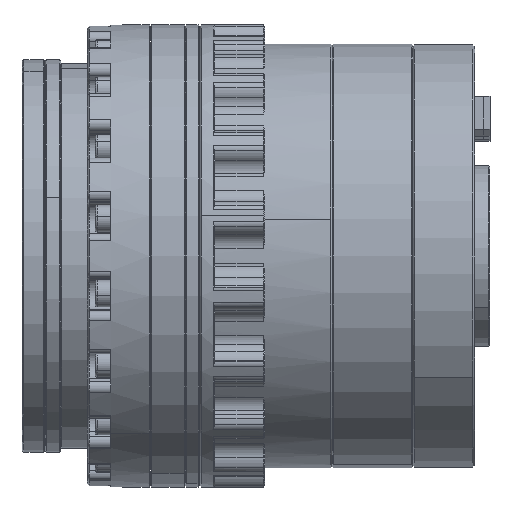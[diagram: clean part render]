
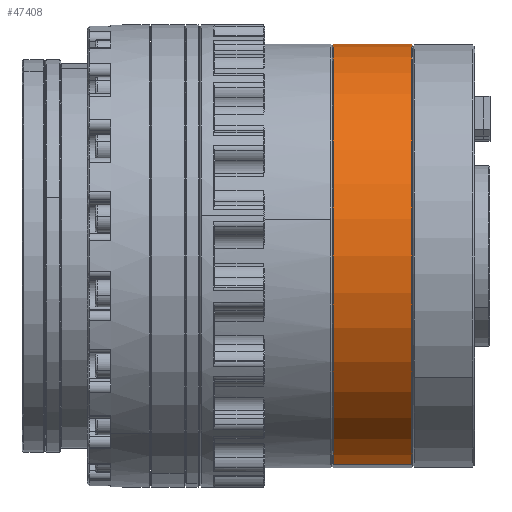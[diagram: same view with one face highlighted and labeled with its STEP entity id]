
A CAD part, left-side view. The second image highlights one B-rep face of the part: STEP entity #47408.
In plain terms, the highlighted cylindrical face has radius 55 mm (diameter 110 mm), a partial arc.
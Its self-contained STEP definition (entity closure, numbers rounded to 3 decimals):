
#2147 = DIRECTION ( 'NONE',  ( 0., 1., 0. ) ) ;
#4577 = DIRECTION ( 'NONE',  ( 0.174, 0., 0.985 ) ) ;
#5516 = CARTESIAN_POINT ( 'NONE',  ( 8.694, -92.972, -57.445 ) ) ;
#5675 = EDGE_LOOP ( 'NONE', ( #6200, #41259, #46866, #8740 ) ) ;
#6200 = ORIENTED_EDGE ( 'NONE', *, *, #43372, .T. ) ;
#8740 = ORIENTED_EDGE ( 'NONE', *, *, #39382, .F. ) ;
#10804 = CARTESIAN_POINT ( 'NONE',  ( 18.244, -91.272, -3.281 ) ) ;
#14685 = DIRECTION ( 'NONE',  ( 0., 1., 0. ) ) ;
#15492 = LINE ( 'NONE', #31020, #35375 ) ;
#17852 = LINE ( 'NONE', #49793, #29140 ) ;
#18506 = CIRCLE ( 'NONE', #40464, 55. ) ;
#18682 = CYLINDRICAL_SURFACE ( 'NONE', #37662, 55. ) ;
#19140 = DIRECTION ( 'NONE',  ( 0., 1., 0. ) ) ;
#19675 = AXIS2_PLACEMENT_3D ( 'NONE', #46155, #2147, #42721 ) ;
#24464 = CARTESIAN_POINT ( 'NONE',  ( 27.795, -72.572, 50.884 ) ) ;
#26871 = DIRECTION ( 'NONE',  ( 0., 1., 0. ) ) ;
#28855 = CARTESIAN_POINT ( 'NONE',  ( 8.694, -72.572, -57.445 ) ) ;
#29140 = VECTOR ( 'NONE', #14685, 1000. ) ;
#30045 = FACE_OUTER_BOUND ( 'NONE', #5675, .T. ) ;
#30911 = EDGE_CURVE ( 'NONE', #33066, #50182, #18506, .T. ) ;
#31020 = CARTESIAN_POINT ( 'NONE',  ( 8.694, -91.272, -57.445 ) ) ;
#33066 = VERTEX_POINT ( 'NONE', #24464 ) ;
#35375 = VECTOR ( 'NONE', #19140, 1000. ) ;
#37307 = VERTEX_POINT ( 'NONE', #45834 ) ;
#37662 = AXIS2_PLACEMENT_3D ( 'NONE', #10804, #26871, #42979 ) ;
#39382 = EDGE_CURVE ( 'NONE', #44077, #50182, #15492, .T. ) ;
#40464 = AXIS2_PLACEMENT_3D ( 'NONE', #44657, #41178, #4577 ) ;
#40753 = CIRCLE ( 'NONE', #19675, 55. ) ;
#41178 = DIRECTION ( 'NONE',  ( 0., -1., 0. ) ) ;
#41259 = ORIENTED_EDGE ( 'NONE', *, *, #47687, .T. ) ;
#42721 = DIRECTION ( 'NONE',  ( 0.174, 0., 0.985 ) ) ;
#42979 = DIRECTION ( 'NONE',  ( -0.174, 0., -0.985 ) ) ;
#43372 = EDGE_CURVE ( 'NONE', #44077, #37307, #40753, .T. ) ;
#44077 = VERTEX_POINT ( 'NONE', #5516 ) ;
#44657 = CARTESIAN_POINT ( 'NONE',  ( 18.244, -72.572, -3.281 ) ) ;
#45834 = CARTESIAN_POINT ( 'NONE',  ( 27.795, -92.972, 50.884 ) ) ;
#46155 = CARTESIAN_POINT ( 'NONE',  ( 18.244, -92.972, -3.281 ) ) ;
#46866 = ORIENTED_EDGE ( 'NONE', *, *, #30911, .T. ) ;
#47408 = ADVANCED_FACE ( 'NONE', ( #30045 ), #18682, .T. ) ;
#47687 = EDGE_CURVE ( 'NONE', #37307, #33066, #17852, .T. ) ;
#49793 = CARTESIAN_POINT ( 'NONE',  ( 27.795, -91.272, 50.884 ) ) ;
#50182 = VERTEX_POINT ( 'NONE', #28855 ) ;
